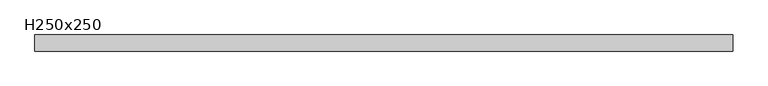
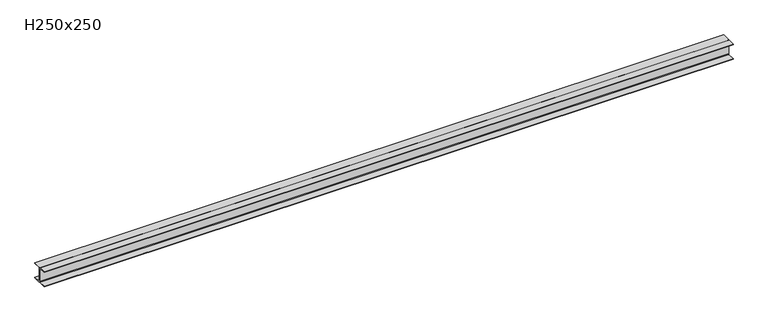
"""IFC4 building model written with IfcOpenShell, lengths in millimetres: beam geometry, H型鋼樑 : H250x250."""

import ifcopenshell
import ifcopenshell.guid

model = None  # the IFC model being written
_history = None  # IfcOwnerHistory: only IFC2X3 demands one
_inside = {}  # id of a spatial element -> (the spatial element, [elements in it])
_under = {}  # id of a project, library or spatial element -> (it, [spatial elements below it])
_declared = {}  # id of a project -> (the project, [libraries it declares])
_typed = {}  # id of a type object -> (the type object, [elements of that type])
_made_of = {}  # id of a material, layer set ... -> (it, [elements and type objects made of it])


def new_model(schema):
    """Start an empty IFC model of exactly this schema.

    Asked for "IFC4X3", IfcOpenShell would pick the latest addendum, in which some entities
    have other attributes; the version numbers below select the first issue.
    IFC2X3 requires an IfcOwnerHistory on every rooted entity: one is made here for all.
    """
    global model, _history
    if schema == "IFC4X3":
        model = ifcopenshell.file(schema_version=(4, 3, 0, 0))
    else:
        model = ifcopenshell.file(schema=schema)
    _inside.clear()
    _under.clear()
    _declared.clear()
    _typed.clear()
    _made_of.clear()
    _history = None
    if model.schema == "IFC2X3":
        org = make("IfcOrganization", Name="unknown")
        user = make(
            "IfcPersonAndOrganization",
            ThePerson=make("IfcPerson", FamilyName="unknown"),
            TheOrganization=org,
        )
        app = make(
            "IfcApplication",
            ApplicationDeveloper=org,
            Version="unknown",
            ApplicationFullName="unknown",
            ApplicationIdentifier="unknown",
        )
        _history = make(
            "IfcOwnerHistory",
            OwningUser=user,
            OwningApplication=app,
            ChangeAction="ADDED",
            CreationDate=0,
        )
    return model


def make(cls, **values):
    """One entity of the class cls with the attributes given. An attribute that is None is left unset."""
    return model.create_entity(
        cls, **{name: value for name, value in values.items() if value is not None}
    )


def rooted(cls, **values):
    """An entity with a GlobalId (a new one), such as an element, a storey or a relation."""
    return make(cls, GlobalId=ifcopenshell.guid.new(), OwnerHistory=_history, **values)


def si_unit(unit_type, name, prefix=None):
    """IfcSIUnit, for example si_unit("LENGTHUNIT", "METRE", prefix="MILLI")."""
    return make("IfcSIUnit", UnitType=unit_type, Prefix=prefix, Name=name)


def assignment(units):
    """IfcUnitAssignment: the units of a project."""
    return None if units is None else make("IfcUnitAssignment", Units=units)


def point(xyz):
    """IfcCartesianPoint."""
    return None if xyz is None else make("IfcCartesianPoint", Coordinates=xyz)


def direction(xyz):
    """IfcDirection."""
    return None if xyz is None else make("IfcDirection", DirectionRatios=xyz)


def frame(location, z_axis=None, x_axis=None):
    """IfcAxis2Placement3D, a coordinate frame: its origin and axes. An axis left out is left unset."""
    return make(
        "IfcAxis2Placement3D",
        Location=point(location),
        Axis=direction(z_axis),
        RefDirection=direction(x_axis),
    )


def frame_2d(location, x_axis=None):
    """IfcAxis2Placement2D, a coordinate frame in the plane: its origin and x axis."""
    return make(
        "IfcAxis2Placement2D", Location=point(location), RefDirection=direction(x_axis)
    )


def origin():
    """The frame at (0, 0, 0) with its axes left unset."""
    return frame((0.0, 0.0, 0.0))


def place(relative_to, where):
    """IfcLocalPlacement: puts the frame where relative to a parent placement (None: the world)."""
    return make(
        "IfcLocalPlacement", PlacementRelTo=relative_to, RelativePlacement=where
    )


def context(
    kind, dimensions, precision=None, world=None, true_north=None, identifier=None
):
    """IfcGeometricRepresentationContext, for example the 3D "Model" context."""
    return make(
        "IfcGeometricRepresentationContext",
        ContextIdentifier=identifier,
        ContextType=kind,
        CoordinateSpaceDimension=dimensions,
        Precision=precision,
        WorldCoordinateSystem=world,
        TrueNorth=true_north,
    )


def project(units=None, contexts=None):
    """IfcProject with its units and contexts."""
    return rooted(
        "IfcProject",
        Name="project",
        RepresentationContexts=contexts,
        UnitsInContext=assignment(units),
    )


def spatial(cls, under=None, at=None, **own):
    """A site, building, storey or space (cls), placed at a placement, below another one or the project."""
    s = rooted(cls, ObjectPlacement=at, **own)
    if under is not None:
        _under.setdefault(under.id(), (under, []))[1].append(s)
    return s


def polyline(points):
    """IfcPolyline through the points."""
    return make("IfcPolyline", Points=[point(p) for p in points])


def circle_curve(where, radius):
    """IfcCircle in the frame where."""
    return make("IfcCircle", Position=where, Radius=radius)


def trimmed(basis, trim1, trim2, sense, master):
    """IfcTrimmedCurve: the piece of a basis curve between two trims."""
    return make(
        "IfcTrimmedCurve",
        BasisCurve=basis,
        Trim1=trim1,
        Trim2=trim2,
        SenseAgreement=sense,
        MasterRepresentation=master,
    )


def segment(curve, same_sense, transition):
    """IfcCompositeCurveSegment."""
    return make(
        "IfcCompositeCurveSegment",
        Transition=transition,
        SameSense=same_sense,
        ParentCurve=curve,
    )


def composite_curve(segments, self_intersect=None):
    """IfcCompositeCurve: segments joined end to end."""
    return make("IfcCompositeCurve", Segments=segments, SelfIntersect=self_intersect)


def outline(outer, holes=None, kind="AREA"):
    """IfcArbitraryClosedProfileDef: a profile drawn as a closed curve; with holes, ...WithVoids."""
    if holes is None:
        return make("IfcArbitraryClosedProfileDef", ProfileType=kind, OuterCurve=outer)
    return make(
        "IfcArbitraryProfileDefWithVoids",
        ProfileType=kind,
        OuterCurve=outer,
        InnerCurves=holes,
    )


def extrude(swept, where, along, depth):
    """IfcExtrudedAreaSolid: the profile swept, set in the frame where, extruded along a direction by depth."""
    return make(
        "IfcExtrudedAreaSolid",
        SweptArea=swept,
        Position=where,
        ExtrudedDirection=direction(along),
        Depth=depth,
    )


def shape(context_of_items, identifier, shape_type, items):
    """IfcShapeRepresentation: the items that make up one representation, for example the "Body"."""
    return make(
        "IfcShapeRepresentation",
        ContextOfItems=context_of_items,
        RepresentationIdentifier=identifier,
        RepresentationType=shape_type,
        Items=items,
    )


def source(mapping_origin, context_of_items, identifier, shape_type, items):
    """IfcRepresentationMap: a shape defined once, which mapped items show again and again."""
    return make(
        "IfcRepresentationMap",
        MappingOrigin=mapping_origin,
        MappedRepresentation=shape(context_of_items, identifier, shape_type, items),
    )


def transform(
    local_origin,
    x_axis=None,
    y_axis=None,
    z_axis=None,
    scale=None,
    scale2=None,
    scale3=None,
    uniform=True,
):
    """IfcCartesianTransformationOperator3D, or its non-uniform kind. x_axis, y_axis, z_axis: its Axis1, 2, 3."""
    if uniform:
        return make(
            "IfcCartesianTransformationOperator3D",
            Axis1=direction(x_axis),
            Axis2=direction(y_axis),
            LocalOrigin=point(local_origin),
            Scale=scale,
            Axis3=direction(z_axis),
        )
    return make(
        "IfcCartesianTransformationOperator3DnonUniform",
        Axis1=direction(x_axis),
        Axis2=direction(y_axis),
        LocalOrigin=point(local_origin),
        Scale=scale,
        Axis3=direction(z_axis),
        Scale2=scale2,
        Scale3=scale3,
    )


def mapped(mapping_source, mapping_target):
    """IfcMappedItem: shows the shape of a source again, moved by a transform."""
    return make(
        "IfcMappedItem", MappingSource=mapping_source, MappingTarget=mapping_target
    )


def made_of(thing, what):
    """Note that an element or type object is made of a material, layer set ...; save() writes the relation."""
    if what is not None:
        _made_of.setdefault(what.id(), (what, []))[1].append(thing)
    return thing


def element(
    cls,
    number,
    at=None,
    inside=None,
    cuts=None,
    type_object=None,
    material=None,
    context=None,
    identifier="Body",
    shape_type=None,
    held_by="IfcProductDefinitionShape",
    body=None,
    shapes=None,
    **own,
):
    """One element of the class cls, such as IfcWall. Its Tag is "e" and its number.

    at: its placement. inside: the storey or other place that contains it. cuts: it is an
    opening in that element (IfcRelVoidsElement). A single representation is given by context,
    identifier, shape_type and body (its items); several are given by shapes. held_by: the class
    of the entity that holds the representations. save() writes the other relations.
    """
    e = rooted(cls, Tag="e%d" % number, ObjectPlacement=at, **own)
    if body is not None:
        shapes = [shape(context, identifier, shape_type, body)]
    if shapes is not None:
        e.Representation = make(held_by, Representations=shapes)
    if inside is not None:
        _inside.setdefault(inside.id(), (inside, []))[1].append(e)
    if cuts is not None:
        rooted(
            "IfcRelVoidsElement", RelatingBuildingElement=cuts, RelatedOpeningElement=e
        )
    if type_object is not None:
        _typed.setdefault(type_object.id(), (type_object, []))[1].append(e)
    return made_of(e, material)


def aggregate(whole, parts):
    """IfcRelAggregates: a whole, such as a stair, and the parts it consists of."""
    return rooted("IfcRelAggregates", RelatingObject=whole, RelatedObjects=parts)


def save(model, path):
    """Write the relations noted so far, then the file.

    IfcRelAggregates (storeys below a building ...), IfcRelContainedInSpatialStructure (elements
    in a storey), IfcRelDefinesByType, IfcRelAssociatesMaterial and IfcRelDeclares: one each for
    every whole, place, type object, material and project.
    """
    for whole, parts in _under.values():
        aggregate(whole, parts)
    for where, things in _inside.values():
        rooted(
            "IfcRelContainedInSpatialStructure",
            RelatedElements=things,
            RelatingStructure=where,
        )
    for kind, things in _typed.values():
        rooted("IfcRelDefinesByType", RelatedObjects=things, RelatingType=kind)
    for what, things in _made_of.values():
        rooted("IfcRelAssociatesMaterial", RelatedObjects=things, RelatingMaterial=what)
    for by, libraries in _declared.values():
        rooted("IfcRelDeclares", RelatingContext=by, RelatedDefinitions=libraries)
    model.write(path)


def h250x250_4f0f0427(model_context):
    return source(origin(), model_context, "Body", "SweptSolid", [
        extrude(outline(composite_curve([segment(polyline([(-125.0, 0.0), (125.0, 0.0), (125.0, -8.0), (13.0, -8.0)]), True, "CONTINUOUS"), segment(trimmed(circle_curve(frame_2d((13.0, -18.0)), 10.0), [point((13.0, -8.0))], [point((3.0, -18.0))], True, "CARTESIAN"), True, "CONTINUOUS"), segment(polyline([(3.0, -18.0), (3.0, -232.0)]), True, "CONTINUOUS"), segment(trimmed(circle_curve(frame_2d((13.0, -232.0)), 10.0), [point((3.0, -232.0))], [point((13.0, -242.0))], True, "CARTESIAN"), True, "CONTINUOUS"), segment(polyline([(13.0, -242.0), (125.0, -242.0), (125.0, -250.0), (-125.0, -250.0), (-125.0, -242.0), (-13.0, -242.0)]), True, "CONTINUOUS"), segment(trimmed(circle_curve(frame_2d((-13.0, -232.0)), 10.0), [point((-13.0, -242.0))], [point((-3.0, -232.0))], True, "CARTESIAN"), True, "CONTINUOUS"), segment(polyline([(-3.0, -232.0), (-3.0, -18.0)]), True, "CONTINUOUS"), segment(trimmed(circle_curve(frame_2d((-13.0, -18.0)), 10.0), [point((-3.0, -18.0))], [point((-13.0, -8.0))], True, "CARTESIAN"), True, "CONTINUOUS"), segment(polyline([(-13.0, -8.0), (-125.0, -8.0), (-125.0, 0.0)]), True, "CONTINUOUS")], self_intersect=False)), frame((-5412.3, 0.0, 0.0), z_axis=(1.0, 0.0, 0.0), x_axis=(0.0, 1.0, 0.0)), (0.0, 0.0, 1.0), 10824.6),
    ])


if __name__ == "__main__":
    model = new_model("IFC4")
    model_context = context("Model", 3, world=origin())
    ifc_project = project(units=[si_unit("LENGTHUNIT", "METRE", prefix="MILLI")], contexts=[model_context])
    site = spatial("IfcSite", under=ifc_project)
    building = spatial("IfcBuilding", under=site)
    placement = place(None, origin())
    h250x250_shape = h250x250_4f0f0427(model_context)
    element("IfcBeam", 1, ObjectType="H型鋼樑 : H250x250", at=placement, inside=building, context=model_context, shape_type="MappedRepresentation", body=[
        mapped(h250x250_shape, transform((0.0, 0.0, 0.0), x_axis=(1.0, 0.0, 0.0), y_axis=(0.0, 1.0, 0.0), z_axis=(0.0, 0.0, 1.0))),
    ])
    save(model, "model.ifc")
